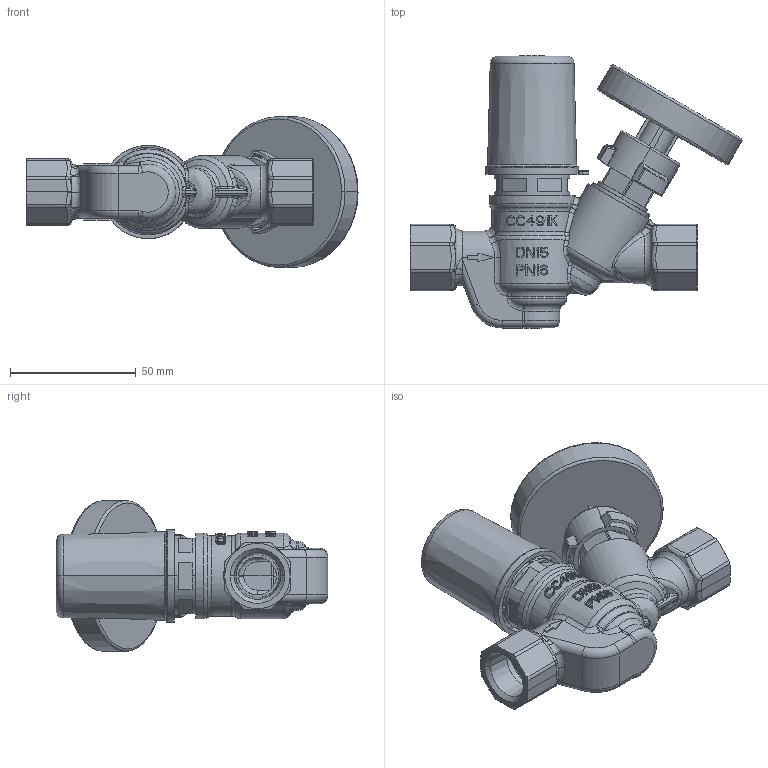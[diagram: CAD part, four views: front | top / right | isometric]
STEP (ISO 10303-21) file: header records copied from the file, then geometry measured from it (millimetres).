
FILE_DESCRIPTION((''),'2;1');
FILE_NAME('FIG2910_DN15_WITH_THERMOMETER_ASM','2013-05-14T',('RChallis'),(''),'PRO/ENGINEER BY PARAMETRIC TECHNOLOGY CORPORATION, 2007460','PRO/ENGINEER BY PARAMETRIC TECHNOLOGY CORPORATION, 2007460','');
FILE_SCHEMA(('CONFIG_CONTROL_DESIGN'));
Length unit declared in the file: millimetre
Products named in the file (4): FIG2910_DN15_NO-CAP_SW; 146110_TU_PROTECTIVE_CAP_HNH; THERMOMETER_ASSY_SW; FIG2910_DN15_WITH_THERMOMETER_ASM
Assembly tree (3 placements, depth 2):
  FIG2910_DN15_WITH_THERMOMETER_ASM
    FIG2910_DN15_NO-CAP_SW
    146110_TU_PROTECTIVE_CAP_HNH
    THERMOMETER_ASSY_SW
Bounding box: 131.86 x 108 x 60 mm (x, y, z)
Volume: 140200.9 mm3; surface area: 62844.4 mm2
Topology: 20 solids, 21 shells, 3531 faces, 9888 edges, 6465 vertices
Faces by surface type: plane 2854, cylinder 253, bspline 208, cone 96, torus 80, sphere 40
Entity records: 125002 total; most frequent: CARTESIAN_POINT 38085, ORIENTED_EDGE 19772, DIRECTION 15742, EDGE_CURVE 9886, VERTEX_POINT 6465, VECTOR 6086, LINE 6086, AXIS2_PLACEMENT_3D 4828
